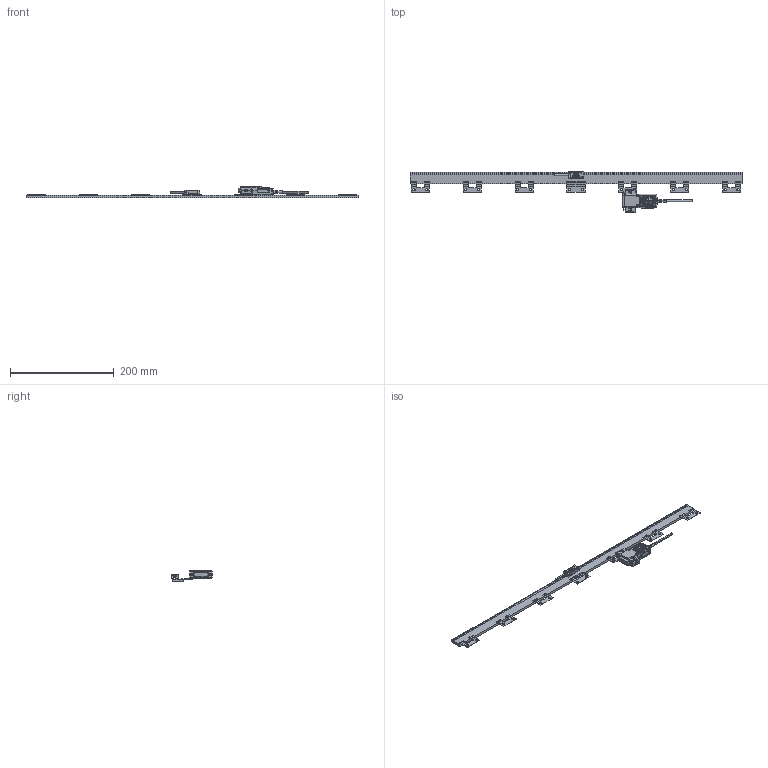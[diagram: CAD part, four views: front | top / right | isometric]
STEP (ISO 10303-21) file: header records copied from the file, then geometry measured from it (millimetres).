
FILE_DESCRIPTION(('Creo Elements/Direct Modeling STEP Export'),'2;1');
FILE_NAME('ST46EZA-600A.stp','2017-09-06T16:32:52',(''),(''),'Creo Elements/Direct Modeling STEP processor for AP214 (Solid Model)','Creo Elements/Direct Modeling 18.1B 29-Sep-2012 (C) Parametric Technology GmbH','');
FILE_SCHEMA(('AUTOMOTIVE_DESIGN { 1 0 10303 214 1 1 1 1 }'));
Length unit declared in the file: millimetre
Products named in the file (4): Detector_Head; IF_Unit; Scale_600; ST46EZA_600A
Assembly tree (3 placements, depth 2):
  ST46EZA_600A
    Scale_600
    IF_Unit
    Detector_Head
Bounding box: 640 x 78.25 x 21.95 mm (x, y, z)
Volume: 71817.1 mm3; surface area: 56504.1 mm2
Topology: 2 solids, 7 shells, 2624 faces, 7010 edges, 4560 vertices
Faces by surface type: plane 1587, cylinder 861, extrusion 63, cone 50, torus 30, bspline 29, revolution 4
Entity records: 87006 total; most frequent: CARTESIAN_POINT 22022, ORIENTED_EDGE 14011, DIRECTION 12521, EDGE_CURVE 7010, VECTOR 4727, LINE 4699, VERTEX_POINT 4560, AXIS2_PLACEMENT_3D 3894
